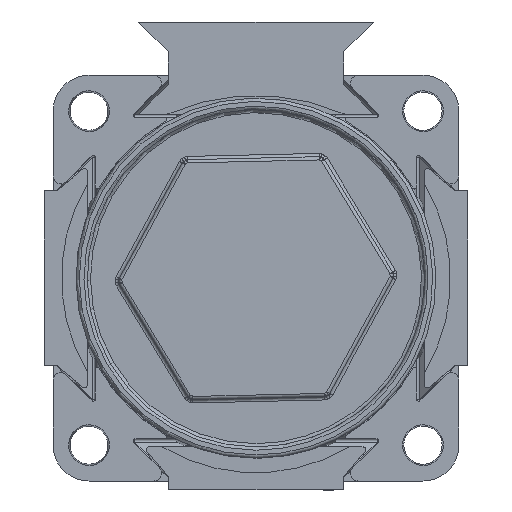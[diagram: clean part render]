
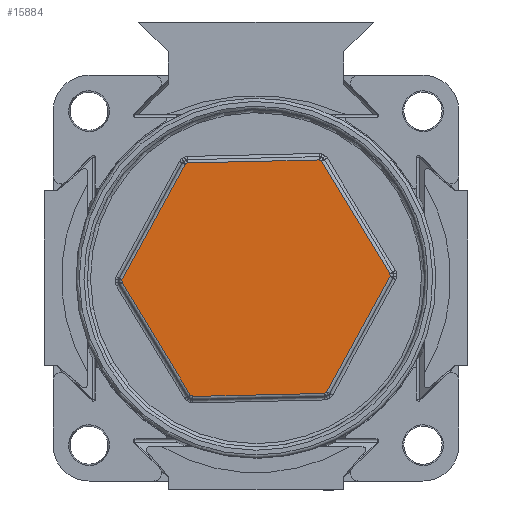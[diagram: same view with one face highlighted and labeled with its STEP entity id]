
A CAD part, front view. The second image highlights one B-rep face of the part: STEP entity #15884.
In plain terms, the highlighted planar face has unit normal (0, -1, 0).
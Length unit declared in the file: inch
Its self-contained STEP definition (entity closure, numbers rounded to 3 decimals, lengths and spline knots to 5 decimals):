
#1258=CIRCLE('',#17187,0.411);
#1290=CIRCLE('',#17228,0.411);
#1322=CIRCLE('',#17269,0.411);
#1340=CIRCLE('',#17298,0.411);
#1344=CIRCLE('',#17309,0.411);
#1348=CIRCLE('',#17319,0.411);
#2040=FACE_OUTER_BOUND('',#2928,.T.);
#2928=EDGE_LOOP('',(#11972,#11973,#11974,#11975,#11976,#11977,#11978,#11979,
#11980,#11981,#11982,#11983));
#3934=LINE('',#25149,#5202);
#3950=LINE('',#25428,#5218);
#3958=LINE('',#25451,#5226);
#3962=LINE('',#25468,#5230);
#3972=LINE('',#25494,#5240);
#3976=LINE('',#25511,#5244);
#5202=VECTOR('',#20259,0.3937);
#5218=VECTOR('',#20519,0.3937);
#5226=VECTOR('',#20539,0.3937);
#5230=VECTOR('',#20551,0.3937);
#5240=VECTOR('',#20575,0.3937);
#5244=VECTOR('',#20587,0.3937);
#6541=VERTEX_POINT('',#25135);
#6544=VERTEX_POINT('',#25142);
#6547=VERTEX_POINT('',#25152);
#6554=VERTEX_POINT('',#25168);
#6561=VERTEX_POINT('',#25198);
#6569=VERTEX_POINT('',#25215);
#6575=VERTEX_POINT('',#25241);
#6582=VERTEX_POINT('',#25257);
#6589=VERTEX_POINT('',#25287);
#6597=VERTEX_POINT('',#25304);
#6604=VERTEX_POINT('',#25331);
#6610=VERTEX_POINT('',#25346);
#8389=EDGE_CURVE('',#6544,#6541,#3934,.T.);
#8402=EDGE_CURVE('',#6554,#6544,#1258,.T.);
#8436=EDGE_CURVE('',#6582,#6569,#1290,.T.);
#8470=EDGE_CURVE('',#6610,#6597,#1322,.T.);
#8497=EDGE_CURVE('',#6604,#6610,#3950,.T.);
#8504=EDGE_CURVE('',#6589,#6604,#1340,.T.);
#8507=EDGE_CURVE('',#6597,#6582,#3958,.T.);
#8513=EDGE_CURVE('',#6575,#6589,#3962,.T.);
#8522=EDGE_CURVE('',#6561,#6575,#1344,.T.);
#8525=EDGE_CURVE('',#6569,#6554,#3972,.T.);
#8531=EDGE_CURVE('',#6547,#6561,#3976,.T.);
#8538=EDGE_CURVE('',#6541,#6547,#1348,.T.);
#11972=ORIENTED_EDGE('',*,*,#8470,.F.);
#11973=ORIENTED_EDGE('',*,*,#8497,.F.);
#11974=ORIENTED_EDGE('',*,*,#8504,.F.);
#11975=ORIENTED_EDGE('',*,*,#8513,.F.);
#11976=ORIENTED_EDGE('',*,*,#8522,.F.);
#11977=ORIENTED_EDGE('',*,*,#8531,.F.);
#11978=ORIENTED_EDGE('',*,*,#8538,.F.);
#11979=ORIENTED_EDGE('',*,*,#8389,.F.);
#11980=ORIENTED_EDGE('',*,*,#8402,.F.);
#11981=ORIENTED_EDGE('',*,*,#8525,.F.);
#11982=ORIENTED_EDGE('',*,*,#8436,.F.);
#11983=ORIENTED_EDGE('',*,*,#8507,.F.);
#14311=PLANE('',#17324);
#15884=ADVANCED_FACE('',(#2040),#14311,.T.);
#17187=AXIS2_PLACEMENT_3D('',#25184,#20289,#20290);
#17228=AXIS2_PLACEMENT_3D('',#25273,#20373,#20374);
#17269=AXIS2_PLACEMENT_3D('',#25362,#20457,#20458);
#17298=AXIS2_PLACEMENT_3D('',#25446,#20531,#20532);
#17309=AXIS2_PLACEMENT_3D('',#25489,#20567,#20568);
#17319=AXIS2_PLACEMENT_3D('',#25529,#20599,#20600);
#17324=AXIS2_PLACEMENT_3D('',#25534,#20609,#20610);
#20259=DIRECTION('',(-1.,0.,-0.023));
#20289=DIRECTION('center_axis',(0.,1.,0.));
#20290=DIRECTION('ref_axis',(0.511,0.,-0.86));
#20373=DIRECTION('center_axis',(0.,1.,0.));
#20374=DIRECTION('ref_axis',(1.,0.,0.012));
#20457=DIRECTION('center_axis',(0.,1.,0.));
#20458=DIRECTION('ref_axis',(0.489,0.,0.872));
#20519=DIRECTION('',(1.,0.,0.023));
#20531=DIRECTION('center_axis',(0.,1.,0.));
#20532=DIRECTION('ref_axis',(-0.511,0.,0.86));
#20539=DIRECTION('',(0.519,0.,-0.854));
#20551=DIRECTION('',(0.48,0.,0.877));
#20567=DIRECTION('center_axis',(0.,1.,0.));
#20568=DIRECTION('ref_axis',(-1.,0.,-0.012));
#20575=DIRECTION('',(-0.48,0.,-0.877));
#20587=DIRECTION('',(-0.519,0.,0.854));
#20599=DIRECTION('center_axis',(0.,1.,0.));
#20600=DIRECTION('ref_axis',(-0.489,0.,-0.872));
#20609=DIRECTION('center_axis',(0.,-1.,0.));
#20610=DIRECTION('ref_axis',(0.,0.,-1.));
#25135=CARTESIAN_POINT('',(-0.19362,-0.548,-0.36254));
#25142=CARTESIAN_POINT('',(0.20983,-0.548,-0.3534));
#25149=CARTESIAN_POINT('',(0.20983,-0.548,-0.3534));
#25152=CARTESIAN_POINT('',(-0.20114,-0.548,-0.35842));
#25168=CARTESIAN_POINT('',(0.21716,-0.548,-0.34895));
#25184=CARTESIAN_POINT('Origin',(0.,-0.548,
0.));
#25198=CARTESIAN_POINT('',(-0.41078,-0.548,-0.01359));
#25215=CARTESIAN_POINT('',(0.41097,-0.548,0.00502));
#25241=CARTESIAN_POINT('',(-0.41097,-0.548,-0.00502));
#25257=CARTESIAN_POINT('',(0.41078,-0.548,0.01359));
#25273=CARTESIAN_POINT('Origin',(0.,-0.548,
0.));
#25287=CARTESIAN_POINT('',(-0.21716,-0.548,0.34895));
#25304=CARTESIAN_POINT('',(0.20114,-0.548,0.35842));
#25331=CARTESIAN_POINT('',(-0.20983,-0.548,0.3534));
#25346=CARTESIAN_POINT('',(0.19362,-0.548,0.36254));
#25362=CARTESIAN_POINT('Origin',(0.,-0.548,
0.));
#25428=CARTESIAN_POINT('',(-0.20983,-0.548,0.3534));
#25446=CARTESIAN_POINT('Origin',(0.,-0.548,
0.));
#25451=CARTESIAN_POINT('',(0.20114,-0.548,0.35842));
#25468=CARTESIAN_POINT('',(-0.41097,-0.548,-0.00502));
#25489=CARTESIAN_POINT('Origin',(0.,-0.548,
0.));
#25494=CARTESIAN_POINT('',(0.41097,-0.548,0.00502));
#25511=CARTESIAN_POINT('',(-0.20114,-0.548,-0.35842));
#25529=CARTESIAN_POINT('Origin',(0.,-0.548,
0.));
#25534=CARTESIAN_POINT('Origin',(-0.41136,-0.548,0.));
